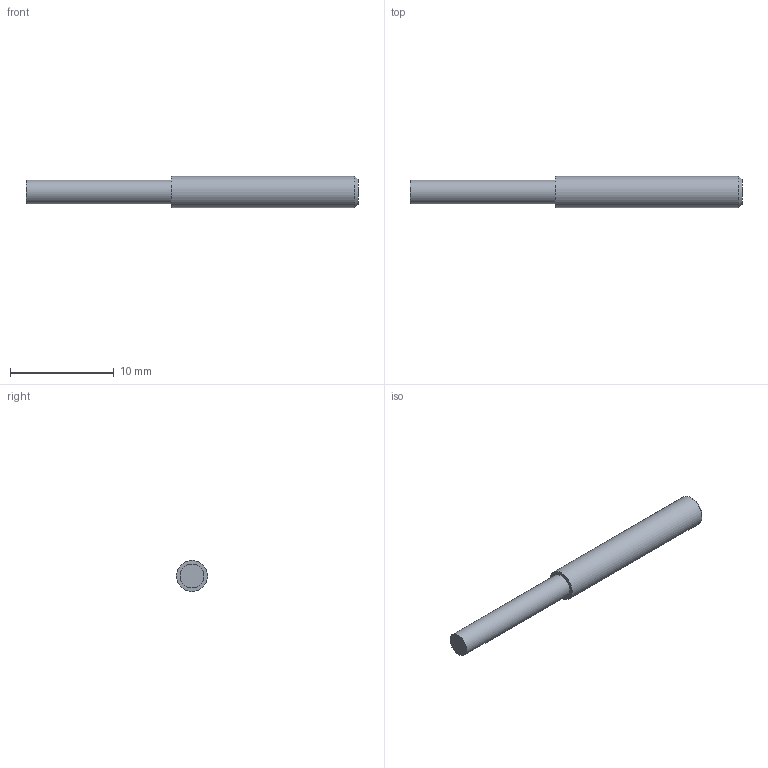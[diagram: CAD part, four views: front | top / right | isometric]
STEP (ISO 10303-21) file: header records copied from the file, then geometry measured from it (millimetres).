
FILE_DESCRIPTION(/* description */ ('STEP AP203'),/* implementation_level */ '2;1');
FILE_NAME(/* name */ 'P_MZ_FO_0111',/* time_stamp */ '2023-03-03T13:07:31+01:00',/* author */ ('License CC BY-ND 4.0'),/* organization */ ('CADENAS'),/* preprocessor_version */ 'ST-DEVELOPER v18.102',/* originating_system */ 'PARTsolutions',/* authorisation */ ' ');
FILE_SCHEMA (('CONFIG_CONTROL_DESIGN'));
Length unit declared in the file: millimetre
Products named in the file (1): P_MZ_FO_0111
Bounding box: 32 x 3 x 3 mm (x, y, z)
Volume: 185 mm3; surface area: 283.2 mm2
Topology: 1 solids, 1 shells, 6 faces, 8 edges, 5 vertices
Faces by surface type: plane 3, cylinder 2, cone 1
Full cylindrical faces by diameter (mm): 2.3 x1, 3 x1
Entity records: 180 total; most frequent: DIRECTION 24, CARTESIAN_POINT 17, AXIS2_PLACEMENT_3D 12, ORIENTED_EDGE 10, EDGE_LOOP 10, FACE_BOUND 10, STYLED_ITEM 6, PRESENTATION_STYLE_ASSIGNMENT 6
